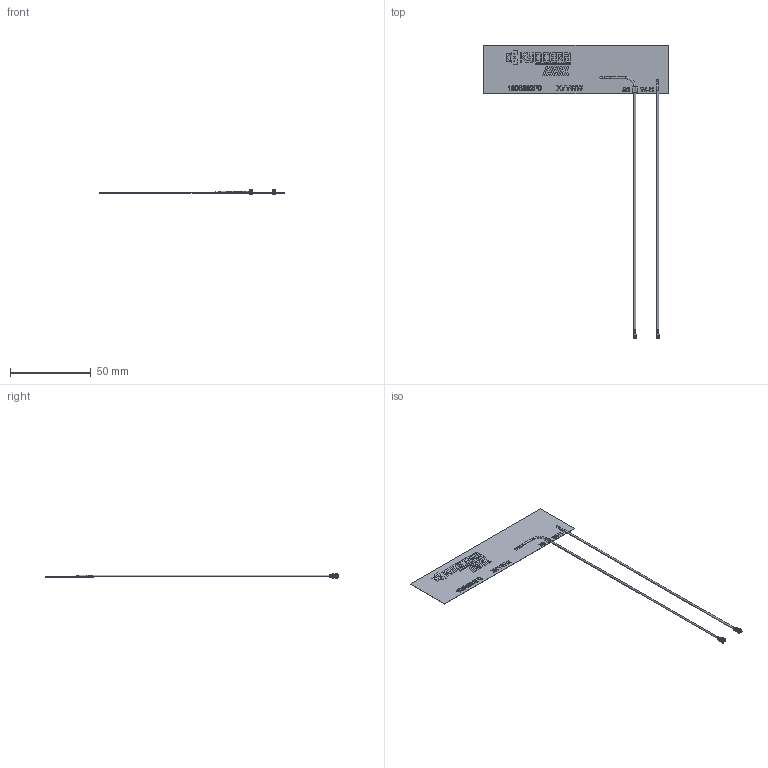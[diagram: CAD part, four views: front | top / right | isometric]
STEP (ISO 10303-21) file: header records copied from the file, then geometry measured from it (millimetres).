
FILE_DESCRIPTION((''),'2;1');
FILE_NAME('1005392F0-AS40L0150_B-ME-FIT_ASM','2026-08-24T17:20:25',('jarvayo'),(''),'CREO PARAMETRIC BY PTC INC, 2025183','CREO PARAMETRIC BY PTC INC, 2025183','');
FILE_SCHEMA(('AP203_CONFIGURATION_CONTROLLED_3D_DESIGN_OF_MECHANICAL_PARTS_AND_ASSEMBLIES_MIM_LF { 1 0 10303 403 2 1 2 }'));
Products named in the file (7): 1005392F0-ME-FIT; 1005394-AA10LXXXX_CABLE; IPEX_20278-112R-13; 1005394-AA10LXXXX_ASM; 1005393-AA12LXXXX_CABLE; 1005393-AA12LXXXX_ASM; 1005392F0-AS40L0150_B-ME-FIT_ASM
Assembly tree (7 placements, depth 3):
  1005392F0-AS40L0150_B-ME-FIT_ASM
    1005392F0-ME-FIT
    1005394-AA10LXXXX_ASM
      1005394-AA10LXXXX_CABLE
      IPEX_20278-112R-13
    1005393-AA12LXXXX_ASM
      1005393-AA12LXXXX_CABLE
      IPEX_20278-112R-13
Bounding box: 114 x 181.46 x 3 mm (x, y, z)
Volume: 827.7 mm3; surface area: 8255.3 mm2
Topology: 7 solids, 11 shells, 2030 faces, 5368 edges, 3428 vertices
Faces by surface type: plane 1186, bspline 331, cylinder 307, cone 92, extrusion 66, torus 44, sphere 4
Entity records: 68166 total; most frequent: CARTESIAN_POINT 26286, ORIENTED_EDGE 7050, DIRECTION 5326, EDGE_CURVE 3525, VECTOR 2420, LINE 2387, PRESENTATION_STYLE_ASSIGNMENT 2327, STYLED_ITEM 2280
